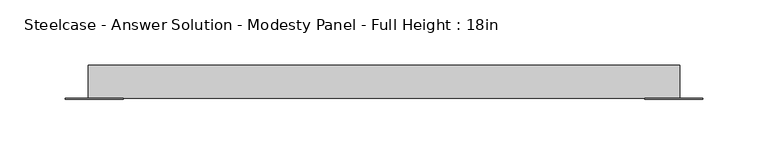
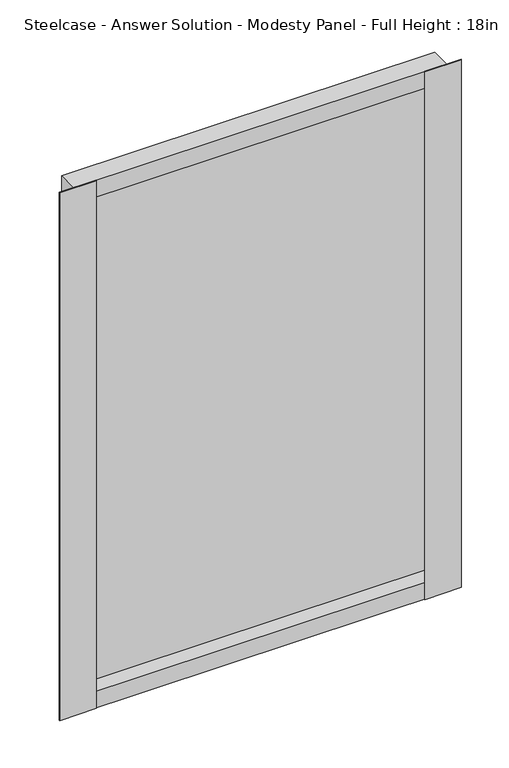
"""IFC4 building model written with IfcOpenShell, lengths in millimetres: furniture geometry, Steelcase - Answer Solution - Modesty Panel - Full Height : 18in."""

from ifc_helpers import new_model, si_unit, frame, origin, place, context, project, spatial, polyline, outline, extrude, faceted_brep, source, transform, mapped, element, save


def steelcase_answer_solution_modesty_panel_full_height_18in_58c8084d(model_context):
    return source(origin(), model_context, "Body", "SolidModel", [
        extrude(outline(polyline([(1000.7400478, -14.2668826), (1000.7400478, -15.0593624), (956.3248254, -15.0593624), (956.3248254, -14.2668826), (1000.7400478, -14.2668826)])), frame((0.0, 0.0, 17.653), z_axis=(0.0, 0.0, 1.0), x_axis=(1.0, 0.0, 0.0)), (0.0, 0.0, 1.0), 678.18),
        extrude(outline(polyline([(556.9673392, -14.2668826), (556.9673392, -15.0593624), (512.5520826, -15.0593624), (512.5520826, -14.2668826), (556.9673392, -14.2668826)])), frame((0.0, 0.0, 17.653), z_axis=(0.0, 0.0, 1.0), x_axis=(1.0, 0.0, 0.0)), (0.0, 0.0, 1.0), 678.18),
        faceted_brep([(530.0780827, 10.9045177, 17.653), (530.0780827, -14.2668826, 17.653), (530.0780827, -14.2668826, 695.833), (530.0780827, 10.9045177, 695.833), (983.2140827, -14.2668826, 17.653), (983.2140827, 10.9045177, 17.653), (983.2140827, 10.9045177, 695.833), (983.2140827, -14.2668826, 695.833), (982.4216165, 4.7831174, 39.243), (530.8705628, 4.7831174, 39.243), (530.8705628, -14.2668826, 39.243), (982.4216165, -14.2668826, 39.243), (530.8705628, -14.2668826, 674.243), (982.4216165, -14.2668826, 674.243), (530.8705628, 4.7831174, 674.243), (982.4216165, 4.7831174, 674.243)], [[[0, 1, 2, 3]], [[4, 5, 6, 7]], [[8, 9, 10, 11]], [[0, 3, 6, 5]], [[4, 1, 0, 5]], [[2, 1, 4, 7], [10, 12, 13, 11]], [[3, 2, 7, 6]], [[14, 15, 13, 12]], [[9, 8, 15, 14]], [[12, 10, 9, 14]], [[11, 13, 15, 8]]]),
    ])


if __name__ == "__main__":
    model = new_model("IFC4")
    model_context = context("Model", 3, world=origin())
    ifc_project = project(units=[si_unit("LENGTHUNIT", "METRE", prefix="MILLI")], contexts=[model_context])
    site = spatial("IfcSite", under=ifc_project)
    building = spatial("IfcBuilding", under=site)
    placement = place(None, origin())
    steelcase_answer_solution_modesty_panel_full_height_18in_shape = steelcase_answer_solution_modesty_panel_full_height_18in_58c8084d(model_context)
    element("IfcFurniture", 1, ObjectType="Steelcase - Answer Solution - Modesty Panel - Full Height : 18in", at=placement, inside=building, context=model_context, shape_type="MappedRepresentation", body=[
        mapped(steelcase_answer_solution_modesty_panel_full_height_18in_shape, transform((0.0, 0.0, 0.0), x_axis=(1.0, 0.0, 0.0), y_axis=(0.0, 1.0, 0.0), z_axis=(0.0, 0.0, 1.0))),
    ])
    save(model, "model.ifc")
